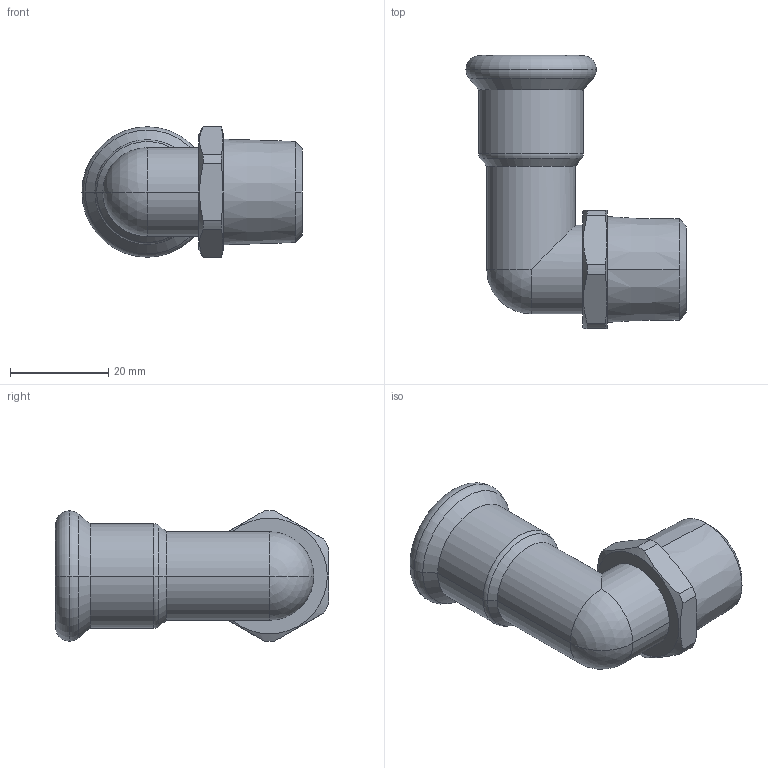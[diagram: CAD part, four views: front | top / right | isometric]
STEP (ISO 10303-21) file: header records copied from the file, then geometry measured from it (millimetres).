
FILE_DESCRIPTION(('OneSpaceDesigner STEP Export'),'2;1');
FILE_NAME('R2728 18xR1-2.stp','2010-06-10T13:17:52',(''),(''),'OneSpace Designer STEP processor for AP214 (Solid Model)','OneSpace Modeling 15.00A 14-Mar-2007 (C) CoCreate Software GmbH','');
FILE_SCHEMA(('AUTOMOTIVE_DESIGN { 1 0 10303 214 1 1 1 1 }'));
Length unit declared in the file: millimetre
Products named in the file (2): R2728_18xR1-2
Assembly tree (1 placements, depth 2):
  R2728_18xR1-2
    R2728_18xR1-2
Bounding box: 44.75 x 55.5 x 26.59 mm (x, y, z)
Volume: 9381.5 mm3; surface area: 10118.5 mm2
Topology: 1 solids, 1 shells, 140 faces, 363 edges, 235 vertices
Faces by surface type: plane 70, cylinder 46, cone 12, torus 6, sphere 6
Entity records: 4728 total; most frequent: CARTESIAN_POINT 1543, ORIENTED_EDGE 718, DIRECTION 562, EDGE_CURVE 359, VERTEX_POINT 235, VECTOR 194, LINE 194, AXIS2_PLACEMENT_3D 184
